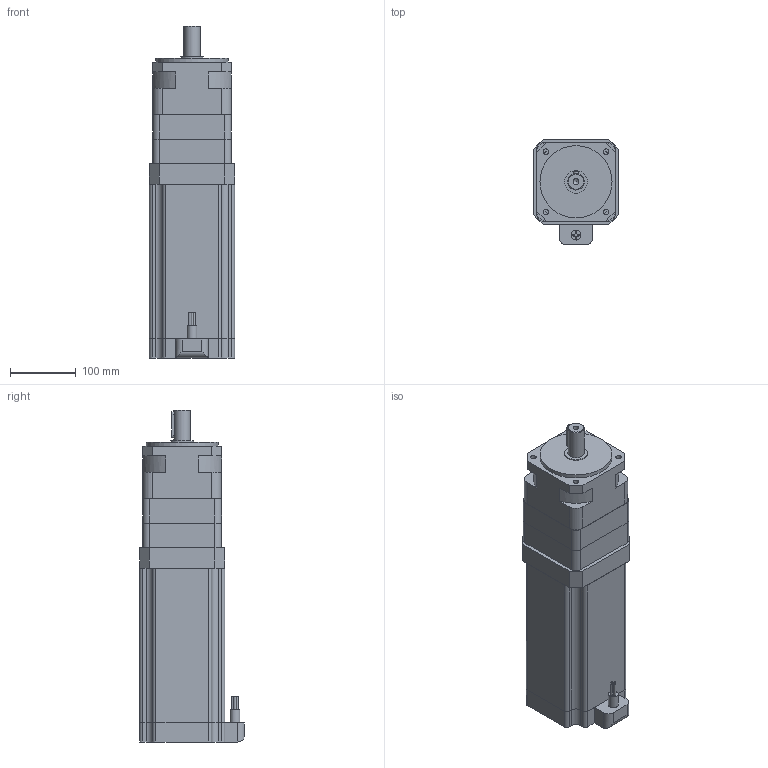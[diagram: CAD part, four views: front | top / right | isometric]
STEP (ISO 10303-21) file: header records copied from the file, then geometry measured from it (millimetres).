
FILE_DESCRIPTION(/* description */ (''),/* implementation_level */ '2;1');
FILE_NAME(/* name */ '120PG004-D68-04296.stp',/* time_stamp */ '2018-08-24T11:04:04+08:00',/* author */ (''),/* organization */ (''),/* preprocessor_version */ 'ST-DEVELOPER v11',/* originating_system */ 'SIEMENS UGS NX 6.0',/* authorisation */ '');
FILE_SCHEMA (('CONFIG_CONTROL_DESIGN'));
Length unit declared in the file: millimetre
Products named in the file (1): 120PG003-D68-04296
Bounding box: 130 x 160 x 506 mm (x, y, z)
Volume: 6865344.1 mm3; surface area: 410258 mm2
Topology: 6 solids, 6 shells, 147 faces, 384 edges, 254 vertices
Faces by surface type: plane 87, cylinder 58, cone 1, torus 1
Full cylindrical faces by diameter (mm): 3 x4, 8.5 x4, 9 x1, 15 x1, 25 x1, 35 x1, 110 x1
Entity records: 4513 total; most frequent: CARTESIAN_POINT 810, DIRECTION 777, ORIENTED_EDGE 716, EDGE_CURVE 358, AXIS2_PLACEMENT_3D 273, VERTEX_POINT 244, LINE 231, VECTOR 231
